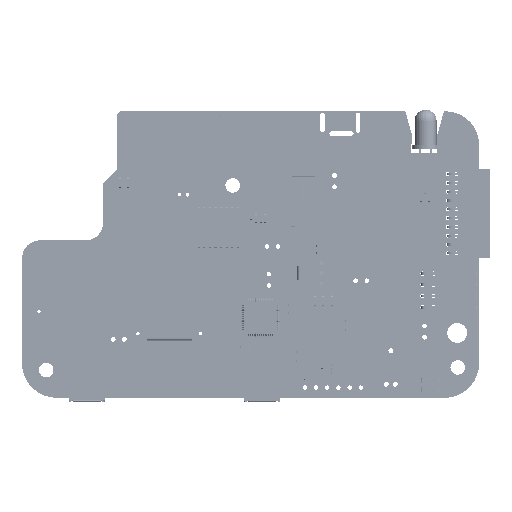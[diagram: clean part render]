
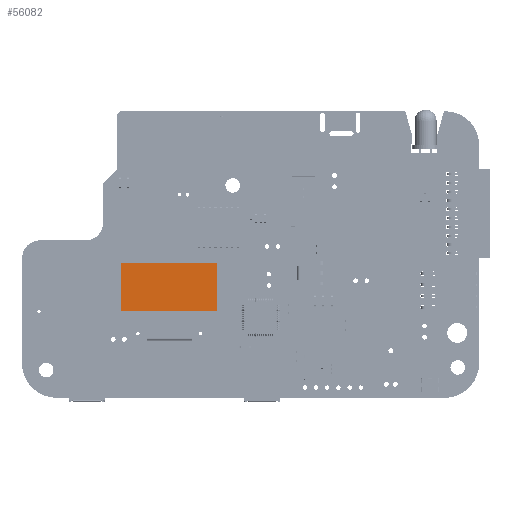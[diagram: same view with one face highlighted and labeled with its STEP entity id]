
A CAD part, top view. The second image highlights one B-rep face of the part: STEP entity #56082.
In plain terms, the highlighted planar face has unit normal (0, 0, 1).
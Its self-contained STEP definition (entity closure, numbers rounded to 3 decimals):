
#55991 = VERTEX_POINT('',#55992);
#55992 = CARTESIAN_POINT('',(35.375,17.7,1.41)
  );
#56000 = VERTEX_POINT('',#56001);
#56001 = CARTESIAN_POINT('',(35.375,6.825,1.41));
#56007 = EDGE_CURVE('',#56000,#55991,#56008,.T.);
#56008 = LINE('',#56009,#56010);
#56009 = CARTESIAN_POINT('',(35.375,6.825,1.41));
#56010 = VECTOR('',#56011,1.);
#56011 = DIRECTION('',(0.,1.,-0.));
#56022 = VERTEX_POINT('',#56023);
#56023 = CARTESIAN_POINT('',(57.125,17.7,1.41)
  );
#56031 = EDGE_CURVE('',#55991,#56022,#56032,.T.);
#56032 = LINE('',#56033,#56034);
#56033 = CARTESIAN_POINT('',(35.375,17.7,1.41)
  );
#56034 = VECTOR('',#56035,1.);
#56035 = DIRECTION('',(1.,0.,-0.));
#56046 = VERTEX_POINT('',#56047);
#56047 = CARTESIAN_POINT('',(57.125,6.825,1.41));
#56055 = EDGE_CURVE('',#56022,#56046,#56056,.T.);
#56056 = LINE('',#56057,#56058);
#56057 = CARTESIAN_POINT('',(57.125,17.7,1.41)
  );
#56058 = VECTOR('',#56059,1.);
#56059 = DIRECTION('',(0.,-1.,-0.));
#56072 = EDGE_CURVE('',#56046,#56000,#56073,.T.);
#56073 = LINE('',#56074,#56075);
#56074 = CARTESIAN_POINT('',(57.125,6.825,1.41));
#56075 = VECTOR('',#56076,1.);
#56076 = DIRECTION('',(-1.,-0.,-0.));
#56082 = ADVANCED_FACE('',(#56083),#56089,.T.);
#56083 = FACE_BOUND('',#56084,.T.);
#56084 = EDGE_LOOP('',(#56085,#56086,#56087,#56088));
#56085 = ORIENTED_EDGE('',*,*,#56031,.F.);
#56086 = ORIENTED_EDGE('',*,*,#56007,.F.);
#56087 = ORIENTED_EDGE('',*,*,#56072,.F.);
#56088 = ORIENTED_EDGE('',*,*,#56055,.F.);
#56089 = PLANE('',#56090);
#56090 = AXIS2_PLACEMENT_3D('',#56091,#56092,#56093);
#56091 = CARTESIAN_POINT('',(35.375,6.825,1.41));
#56092 = DIRECTION('',(0.,0.,1.));
#56093 = DIRECTION('',(1.,0.,-0.));
